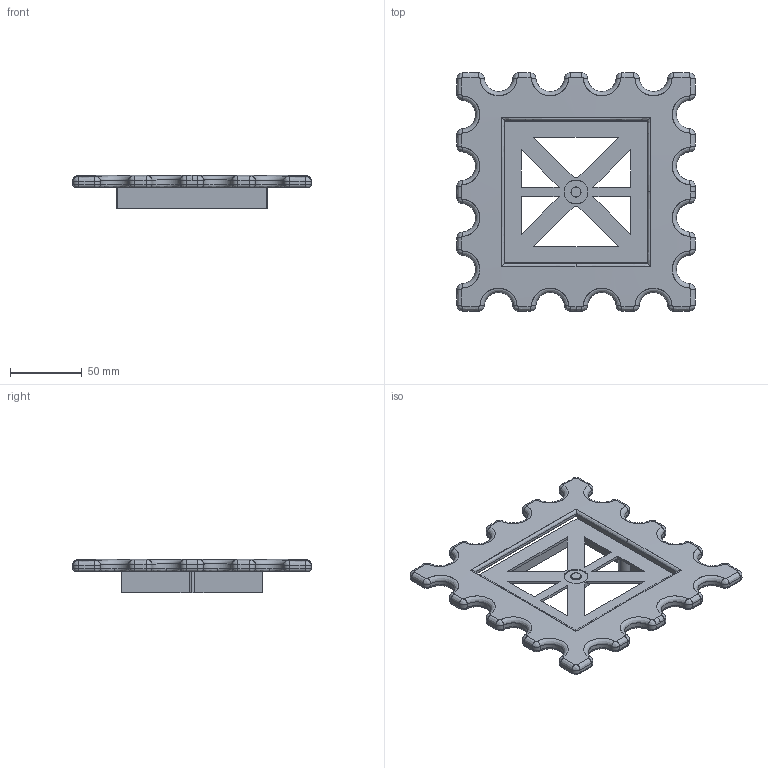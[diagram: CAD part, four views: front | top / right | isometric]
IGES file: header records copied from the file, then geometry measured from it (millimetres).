
Start section: C
Global section: file name: 8207-165.igs; native system: By Siemens PLM Incorporated; preprocessor: XPlus GENERIC/IGES 16.0.42; author: Author; organization: Title; date: 20231115.134152; units: millimetre
Bounding box: 166 x 166 x 23.61 mm (x, y, z)
Surface area: 74616.6 mm2 (no closed solid volume)
Topology: 0 solids, 0 shells, 836 faces, 4242 edges, 4242 vertices
Faces by surface type: bspline 836
